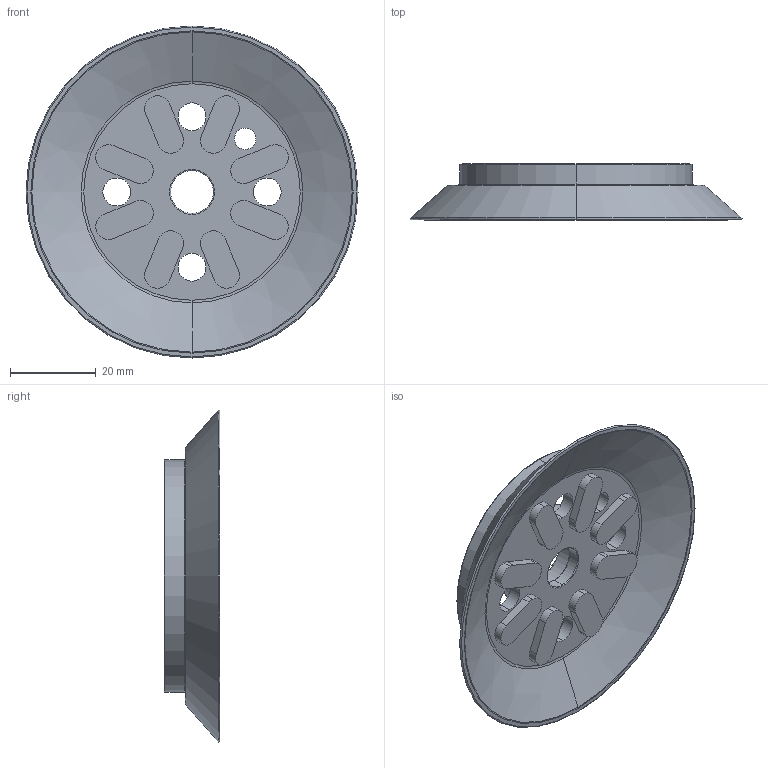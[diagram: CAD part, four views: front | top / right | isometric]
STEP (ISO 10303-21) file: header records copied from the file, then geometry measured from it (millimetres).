
FILE_DESCRIPTION (( 'STEP AP203' ), '1' );
FILE_NAME ('90_75--A.STEP', '2017-10-27T09:07:35', ( '' ), ( '' ), 'SwSTEP 2.0', 'SolidWorks 2016', '' );
FILE_SCHEMA (( 'CONFIG_CONTROL_DESIGN' ));
Length unit declared in the file: millimetre
Products named in the file (1): 90_75--A
Bounding box: 77.25 x 13 x 77.25 mm (x, y, z)
Volume: 18954.3 mm3; surface area: 13850.6 mm2
Topology: 1 solids, 1 shells, 117 faces, 268 edges, 168 vertices
Faces by surface type: cylinder 48, plane 33, torus 32, cone 4
Entity records: 3455 total; most frequent: DIRECTION 672, CARTESIAN_POINT 554, ORIENTED_EDGE 536, AXIS2_PLACEMENT_3D 286, EDGE_CURVE 268, VERTEX_POINT 168, CIRCLE 168, EDGE_LOOP 144
